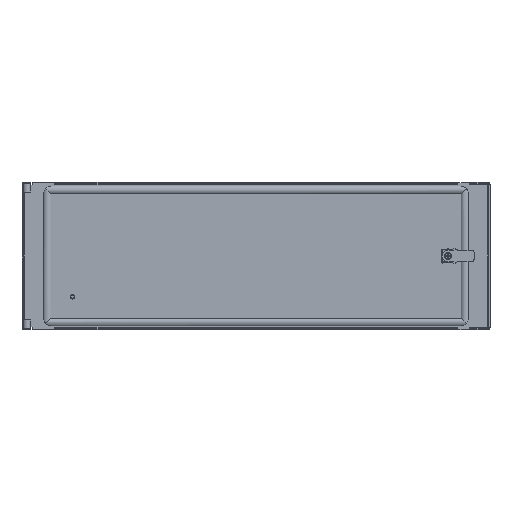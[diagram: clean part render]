
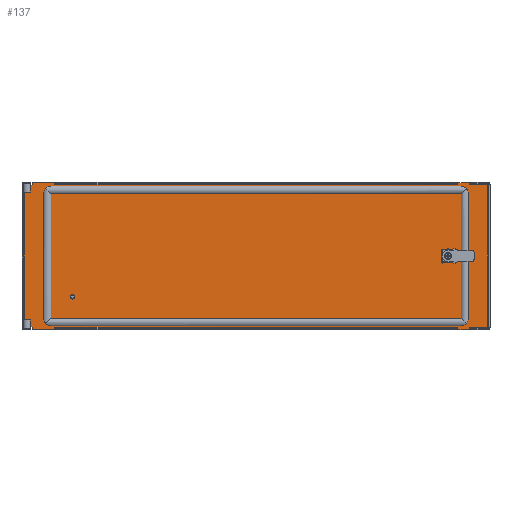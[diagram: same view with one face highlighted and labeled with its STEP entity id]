
A CAD part, top view. The second image highlights one B-rep face of the part: STEP entity #137.
In plain terms, the highlighted planar face has unit normal (0, 0, 1).
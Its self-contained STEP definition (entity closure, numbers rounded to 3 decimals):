
#137=ADVANCED_FACE('',(#702,#704,#706),#708,.T.);
#702=FACE_BOUND('',#703,.T.);
#703=EDGE_LOOP('',(#3435,#3436,#3437,#3438,#3439,#3440,#3441,#3442,#3443,#3444,#3445,
#3446,#3447,#3448,#3449,#3450,#3451,#3452,#3453,#3454,#3455,#3456,#3457,#3458,#3459,
#3460,#3461,#3462));
#704=FACE_BOUND('',#705,.T.);
#705=EDGE_LOOP('',(#3463));
#706=FACE_BOUND('',#707,.T.);
#707=EDGE_LOOP('',(#3464,#3465,#3466,#3467));
#708=PLANE('',#709);
#709=AXIS2_PLACEMENT_3D('',#710,#711,#712);
#710=CARTESIAN_POINT('',(0.,0.,2.));
#711=DIRECTION('',(0.,0.,1.));
#712=DIRECTION('',(1.,0.,0.));
#3435=ORIENTED_EDGE('',*,*,#5245,.F.);
#3436=ORIENTED_EDGE('',*,*,#5225,.F.);
#3437=ORIENTED_EDGE('',*,*,#5152,.F.);
#3438=ORIENTED_EDGE('',*,*,#5246,.F.);
#3439=ORIENTED_EDGE('',*,*,#5247,.F.);
#3440=ORIENTED_EDGE('',*,*,#5248,.F.);
#3441=ORIENTED_EDGE('',*,*,#5249,.F.);
#3442=ORIENTED_EDGE('',*,*,#5221,.F.);
#3443=ORIENTED_EDGE('',*,*,#5156,.F.);
#3444=ORIENTED_EDGE('',*,*,#5250,.F.);
#3445=ORIENTED_EDGE('',*,*,#5251,.F.);
#3446=ORIENTED_EDGE('',*,*,#5252,.F.);
#3447=ORIENTED_EDGE('',*,*,#5253,.F.);
#3448=ORIENTED_EDGE('',*,*,#5254,.F.);
#3449=ORIENTED_EDGE('',*,*,#5255,.F.);
#3450=ORIENTED_EDGE('',*,*,#5176,.F.);
#3451=ORIENTED_EDGE('',*,*,#5149,.F.);
#3452=ORIENTED_EDGE('',*,*,#5256,.T.);
#3453=ORIENTED_EDGE('',*,*,#5257,.T.);
#3454=ORIENTED_EDGE('',*,*,#5258,.T.);
#3455=ORIENTED_EDGE('',*,*,#5143,.F.);
#3456=ORIENTED_EDGE('',*,*,#5174,.F.);
#3457=ORIENTED_EDGE('',*,*,#5141,.F.);
#3458=ORIENTED_EDGE('',*,*,#5259,.T.);
#3459=ORIENTED_EDGE('',*,*,#5260,.T.);
#3460=ORIENTED_EDGE('',*,*,#5261,.T.);
#3461=ORIENTED_EDGE('',*,*,#5135,.F.);
#3462=ORIENTED_EDGE('',*,*,#5182,.F.);
#3463=ORIENTED_EDGE('',*,*,#5133,.F.);
#3464=ORIENTED_EDGE('',*,*,#5262,.F.);
#3465=ORIENTED_EDGE('',*,*,#5263,.F.);
#3466=ORIENTED_EDGE('',*,*,#5264,.F.);
#3467=ORIENTED_EDGE('',*,*,#5265,.F.);
#5133=EDGE_CURVE('',#6052,#6052,#6053,.T.);
#5135=EDGE_CURVE('',#6056,#6057,#6058,.T.);
#5141=EDGE_CURVE('',#6067,#6069,#6070,.T.);
#5143=EDGE_CURVE('',#6072,#6073,#6074,.T.);
#5149=EDGE_CURVE('',#6083,#6085,#6086,.T.);
#5152=EDGE_CURVE('',#6088,#6091,#6092,.T.);
#5156=EDGE_CURVE('',#6096,#6099,#6100,.T.);
#5174=EDGE_CURVE('',#6069,#6072,#6129,.T.);
#5176=EDGE_CURVE('',#6085,#6132,#6133,.T.);
#5182=EDGE_CURVE('',#6141,#6056,#6143,.T.);
#5221=EDGE_CURVE('',#6099,#6206,#6207,.T.);
#5225=EDGE_CURVE('',#6091,#6213,#6214,.T.);
#5245=EDGE_CURVE('',#6213,#6141,#6244,.T.);
#5246=EDGE_CURVE('',#6245,#6088,#6246,.T.);
#5247=EDGE_CURVE('',#6247,#6245,#6248,.T.);
#5248=EDGE_CURVE('',#6249,#6247,#6250,.T.);
#5249=EDGE_CURVE('',#6206,#6249,#6251,.T.);
#5250=EDGE_CURVE('',#6252,#6096,#6253,.T.);
#5251=EDGE_CURVE('',#6254,#6252,#6255,.T.);
#5252=EDGE_CURVE('',#6256,#6254,#6257,.T.);
#5253=EDGE_CURVE('',#6258,#6256,#6259,.T.);
#5254=EDGE_CURVE('',#6260,#6258,#6261,.T.);
#5255=EDGE_CURVE('',#6132,#6260,#6262,.T.);
#5256=EDGE_CURVE('',#6083,#6263,#6264,.T.);
#5257=EDGE_CURVE('',#6263,#6265,#6266,.T.);
#5258=EDGE_CURVE('',#6265,#6073,#6267,.T.);
#5259=EDGE_CURVE('',#6067,#6268,#6269,.T.);
#5260=EDGE_CURVE('',#6268,#6270,#6271,.T.);
#5261=EDGE_CURVE('',#6270,#6057,#6272,.T.);
#5262=EDGE_CURVE('',#6273,#6274,#6275,.T.);
#5263=EDGE_CURVE('',#6276,#6273,#6277,.T.);
#5264=EDGE_CURVE('',#6278,#6276,#6279,.T.);
#5265=EDGE_CURVE('',#6274,#6278,#6280,.T.);
#6052=VERTEX_POINT('',#7567);
#6053=CIRCLE('',#7568,0.5);
#6056=VERTEX_POINT('',#7577);
#6057=VERTEX_POINT('',#7578);
#6058=LINE('',#7579,#7580);
#6067=VERTEX_POINT('',#7598);
#6069=VERTEX_POINT('',#7602);
#6070=LINE('',#7603,#7604);
#6072=VERTEX_POINT('',#7609);
#6073=VERTEX_POINT('',#7610);
#6074=LINE('',#7611,#7612);
#6083=VERTEX_POINT('',#7630);
#6085=VERTEX_POINT('',#7634);
#6086=LINE('',#7635,#7636);
#6088=VERTEX_POINT('',#7641);
#6091=VERTEX_POINT('',#7646);
#6092=LINE('',#7647,#7648);
#6096=VERTEX_POINT('',#7657);
#6099=VERTEX_POINT('',#7662);
#6100=LINE('',#7663,#7664);
#6129=LINE('',#7762,#7763);
#6132=VERTEX_POINT('',#7770);
#6133=LINE('',#7771,#7772);
#6141=VERTEX_POINT('',#7803);
#6143=LINE('',#7820,#7821);
#6206=VERTEX_POINT('',#7979);
#6207=LINE('',#7980,#7981);
#6213=VERTEX_POINT('',#7996);
#6214=LINE('',#7997,#7998);
#6244=LINE('',#8080,#8081);
#6245=VERTEX_POINT('',#8083);
#6246=LINE('',#8084,#8085);
#6247=VERTEX_POINT('',#8087);
#6248=LINE('',#8088,#8089);
#6249=VERTEX_POINT('',#8091);
#6250=LINE('',#8092,#8093);
#6251=LINE('',#8095,#8096);
#6252=VERTEX_POINT('',#8098);
#6253=LINE('',#8099,#8100);
#6254=VERTEX_POINT('',#8102);
#6255=LINE('',#8103,#8104);
#6256=VERTEX_POINT('',#8106);
#6257=LINE('',#8107,#8108);
#6258=VERTEX_POINT('',#8110);
#6259=LINE('',#8111,#8112);
#6260=VERTEX_POINT('',#8114);
#6261=LINE('',#8115,#8116);
#6262=LINE('',#8118,#8119);
#6263=VERTEX_POINT('',#8121);
#6264=LINE('',#8122,#8123);
#6265=VERTEX_POINT('',#8125);
#6266=LINE('',#8126,#8127);
#6267=LINE('',#8129,#8130);
#6268=VERTEX_POINT('',#8132);
#6269=LINE('',#8133,#8134);
#6270=VERTEX_POINT('',#8136);
#6271=LINE('',#8137,#8138);
#6272=LINE('',#8140,#8141);
#6273=VERTEX_POINT('',#8143);
#6274=VERTEX_POINT('',#8144);
#6275=LINE('',#8145,#8146);
#6276=VERTEX_POINT('',#8148);
#6277=LINE('',#8149,#8150);
#6278=VERTEX_POINT('',#8152);
#6279=LINE('',#8153,#8154);
#6280=LINE('',#8156,#8157);
#7567=CARTESIAN_POINT('',(-307.7,-68.5,2.));
#7568=AXIS2_PLACEMENT_3D('',#7569,#7570,#7571);
#7569=CARTESIAN_POINT('',(-308.2,-68.5,2.));
#7570=DIRECTION('',(0.,0.,1.));
#7571=DIRECTION('',(-1.,0.,0.));
#7577=CARTESIAN_POINT('',(360.7,-120.1,2.));
#7578=CARTESIAN_POINT('',(358.7,-120.1,2.));
#7579=CARTESIAN_POINT('',(360.7,-120.1,2.));
#7580=VECTOR('',#7581,1.);
#7581=DIRECTION('',(-1.,0.,0.));
#7598=CARTESIAN_POINT('',(339.2,-120.1,2.));
#7602=CARTESIAN_POINT('',(337.2,-120.1,2.));
#7603=CARTESIAN_POINT('',(339.2,-120.1,2.));
#7604=VECTOR('',#7605,1.);
#7605=DIRECTION('',(-1.,0.,0.));
#7609=CARTESIAN_POINT('',(-336.2,-120.1,2.));
#7610=CARTESIAN_POINT('',(-338.2,-120.1,2.));
#7611=CARTESIAN_POINT('',(-336.2,-120.1,2.));
#7612=VECTOR('',#7613,1.);
#7613=DIRECTION('',(-1.,0.,0.));
#7630=CARTESIAN_POINT('',(-376.2,-120.1,2.));
#7634=CARTESIAN_POINT('',(-378.2,-120.1,2.));
#7635=CARTESIAN_POINT('',(-376.2,-120.1,2.));
#7636=VECTOR('',#7637,1.);
#7637=DIRECTION('',(-1.,0.,0.));
#7641=CARTESIAN_POINT('',(358.7,120.1,2.));
#7646=CARTESIAN_POINT('',(360.7,120.1,2.));
#7647=CARTESIAN_POINT('',(358.7,120.1,2.));
#7648=VECTOR('',#7649,1.);
#7649=DIRECTION('',(1.,0.,0.));
#7657=CARTESIAN_POINT('',(-338.2,120.1,2.));
#7662=CARTESIAN_POINT('',(-336.2,120.1,2.));
#7663=CARTESIAN_POINT('',(-338.2,120.1,2.));
#7664=VECTOR('',#7665,1.);
#7665=DIRECTION('',(1.,0.,0.));
#7762=CARTESIAN_POINT('',(337.2,-120.1,2.));
#7763=VECTOR('',#7764,1.);
#7764=DIRECTION('',(-1.,0.,0.));
#7770=CARTESIAN_POINT('',(-389.8,-120.1,2.));
#7771=CARTESIAN_POINT('',(-378.2,-120.1,2.));
#7772=VECTOR('',#7773,1.);
#7773=DIRECTION('',(-1.,0.,0.));
#7803=CARTESIAN_POINT('',(389.8,-120.1,2.));
#7820=CARTESIAN_POINT('',(389.8,-120.1,2.));
#7821=VECTOR('',#7822,1.);
#7822=DIRECTION('',(-1.,0.,0.));
#7979=CARTESIAN_POINT('',(337.2,120.1,2.));
#7980=CARTESIAN_POINT('',(-336.2,120.1,2.));
#7981=VECTOR('',#7982,1.);
#7982=DIRECTION('',(1.,0.,0.));
#7996=CARTESIAN_POINT('',(389.8,120.1,2.));
#7997=CARTESIAN_POINT('',(360.7,120.1,2.));
#7998=VECTOR('',#7999,1.);
#7999=DIRECTION('',(1.,0.,0.));
#8080=CARTESIAN_POINT('',(389.8,120.1,2.));
#8081=VECTOR('',#8082,1.);
#8082=DIRECTION('',(0.,-1.,0.));
#8083=CARTESIAN_POINT('',(358.7,123.5,2.));
#8084=CARTESIAN_POINT('',(358.7,123.5,2.));
#8085=VECTOR('',#8086,1.);
#8086=DIRECTION('',(0.,-1.,0.));
#8087=CARTESIAN_POINT('',(339.2,123.5,2.));
#8088=CARTESIAN_POINT('',(339.2,123.5,2.));
#8089=VECTOR('',#8090,1.);
#8090=DIRECTION('',(1.,0.,0.));
#8091=CARTESIAN_POINT('',(339.2,120.1,2.));
#8092=CARTESIAN_POINT('',(339.2,120.1,2.));
#8093=VECTOR('',#8094,1.);
#8094=DIRECTION('',(0.,1.,0.));
#8095=CARTESIAN_POINT('',(337.2,120.1,2.));
#8096=VECTOR('',#8097,1.);
#8097=DIRECTION('',(1.,0.,0.));
#8098=CARTESIAN_POINT('',(-338.2,123.5,2.));
#8099=CARTESIAN_POINT('',(-338.2,123.5,2.));
#8100=VECTOR('',#8101,1.);
#8101=DIRECTION('',(0.,-1.,0.));
#8102=CARTESIAN_POINT('',(-376.2,123.5,2.));
#8103=CARTESIAN_POINT('',(-376.2,123.5,2.));
#8104=VECTOR('',#8105,1.);
#8105=DIRECTION('',(1.,0.,0.));
#8106=CARTESIAN_POINT('',(-376.2,120.1,2.));
#8107=CARTESIAN_POINT('',(-376.2,120.1,2.));
#8108=VECTOR('',#8109,1.);
#8109=DIRECTION('',(0.,1.,0.));
#8110=CARTESIAN_POINT('',(-378.2,120.1,2.));
#8111=CARTESIAN_POINT('',(-378.2,120.1,2.));
#8112=VECTOR('',#8113,1.);
#8113=DIRECTION('',(1.,0.,0.));
#8114=CARTESIAN_POINT('',(-389.8,120.1,2.));
#8115=CARTESIAN_POINT('',(-389.8,120.1,2.));
#8116=VECTOR('',#8117,1.);
#8117=DIRECTION('',(1.,0.,0.));
#8118=CARTESIAN_POINT('',(-389.8,-120.1,2.));
#8119=VECTOR('',#8120,1.);
#8120=DIRECTION('',(0.,1.,0.));
#8121=CARTESIAN_POINT('',(-376.2,-123.5,2.));
#8122=CARTESIAN_POINT('',(-376.2,-120.1,2.));
#8123=VECTOR('',#8124,1.);
#8124=DIRECTION('',(0.,-1.,0.));
#8125=CARTESIAN_POINT('',(-338.2,-123.5,2.));
#8126=CARTESIAN_POINT('',(-376.2,-123.5,2.));
#8127=VECTOR('',#8128,1.);
#8128=DIRECTION('',(1.,0.,0.));
#8129=CARTESIAN_POINT('',(-338.2,-123.5,2.));
#8130=VECTOR('',#8131,1.);
#8131=DIRECTION('',(0.,1.,0.));
#8132=CARTESIAN_POINT('',(339.2,-123.5,2.));
#8133=CARTESIAN_POINT('',(339.2,-120.1,2.));
#8134=VECTOR('',#8135,1.);
#8135=DIRECTION('',(0.,-1.,0.));
#8136=CARTESIAN_POINT('',(358.7,-123.5,2.));
#8137=CARTESIAN_POINT('',(339.2,-123.5,2.));
#8138=VECTOR('',#8139,1.);
#8139=DIRECTION('',(1.,0.,0.));
#8140=CARTESIAN_POINT('',(358.7,-123.5,2.));
#8141=VECTOR('',#8142,1.);
#8142=DIRECTION('',(0.,1.,0.));
#8143=CARTESIAN_POINT('',(333.2,-10.6,2.));
#8144=CARTESIAN_POINT('',(333.2,10.6,2.));
#8145=CARTESIAN_POINT('',(333.2,-10.6,2.));
#8146=VECTOR('',#8147,1.);
#8147=DIRECTION('',(0.,1.,0.));
#8148=CARTESIAN_POINT('',(312.,-10.6,2.));
#8149=CARTESIAN_POINT('',(312.,-10.6,2.));
#8150=VECTOR('',#8151,1.);
#8151=DIRECTION('',(1.,0.,0.));
#8152=CARTESIAN_POINT('',(312.,10.6,2.));
#8153=CARTESIAN_POINT('',(312.,10.6,2.));
#8154=VECTOR('',#8155,1.);
#8155=DIRECTION('',(0.,-1.,0.));
#8156=CARTESIAN_POINT('',(333.2,10.6,2.));
#8157=VECTOR('',#8158,1.);
#8158=DIRECTION('',(-1.,0.,0.));
